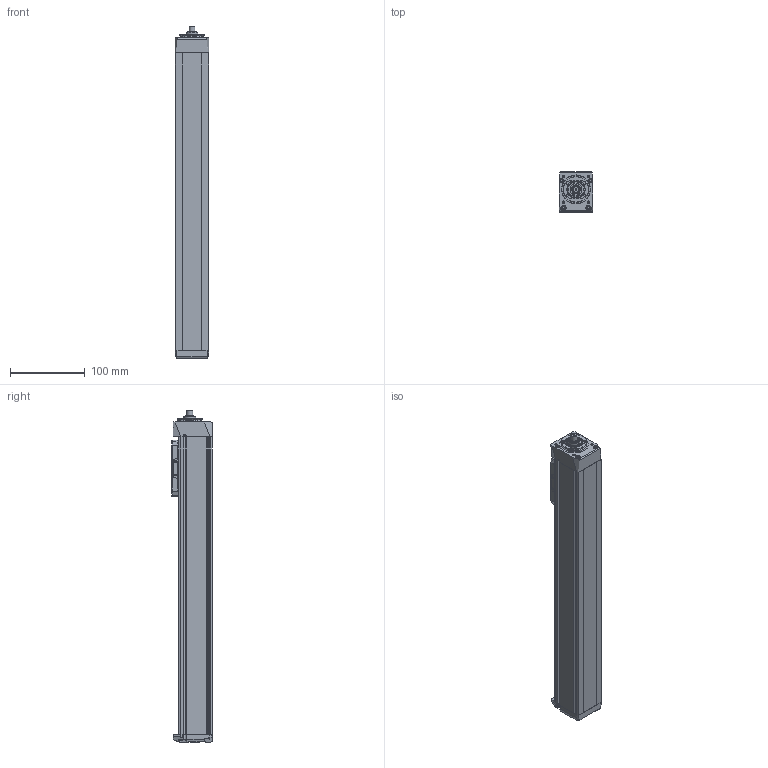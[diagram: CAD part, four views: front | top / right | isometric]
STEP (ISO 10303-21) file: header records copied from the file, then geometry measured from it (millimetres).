
FILE_DESCRIPTION(/* description */ ('STEP AP214'),/* implementation_level */ '2;1');
FILE_NAME(/* name */ 'MGBS 45 1003 300(0)',/* time_stamp */ '2023-04-12T11:07:46+02:00',/* author */ ('License CC BY-ND 4.0'),/* organization */ ('CADENAS'),/* preprocessor_version */ 'ST-DEVELOPER v19.3',/* originating_system */ 'PARTsolutions',/* authorisation */ ' ');
FILE_SCHEMA (('AUTOMOTIVE_DESIGN {1 0 10303 214 3 1 1}'));
Length unit declared in the file: millimetre
Products named in the file (6): MGBS 45 1003 300(0); MGBS 45 300_protection_strip; MGBS 45_carriage; MGBS 45_end_block; MGBS 45 300_profile; MGBS 45_drive_block
Assembly tree (5 placements, depth 2):
  MGBS 45 1003 300(0)
    MGBS 45 300_protection_strip
    MGBS 45_carriage
    MGBS 45_end_block
    MGBS 45 300_profile
    MGBS 45_drive_block
Bounding box: 45 x 54 x 443 mm (x, y, z)
Volume: 852688.9 mm3; surface area: 144806.3 mm2
Topology: 5 solids, 5 shells, 655 faces, 1721 edges, 1113 vertices
Faces by surface type: plane 312, cylinder 156, cone 94, bspline 64, torus 27, sphere 2
Full cylindrical faces by diameter (mm): 1 x1, 1.755 x4, 2.459 x6, 2.46 x2, 2.5 x8, 3 x4, 3.242 x8, 3.8 x6, 4 x2, 4.5 x4, 5 x2, 5.5 x4, 6.5 x4, 8 x1, 11 x2, 16 x1, 24.5 x1, 34 x2, 38.2 x1
Entity records: 23967 total; most frequent: CARTESIAN_POINT 4130, DIRECTION 3272, ORIENTED_EDGE 3064, EDGE_CURVE 1532, AXIS2_PLACEMENT_3D 1183, VERTEX_POINT 1095, LINE 906, VECTOR 906
